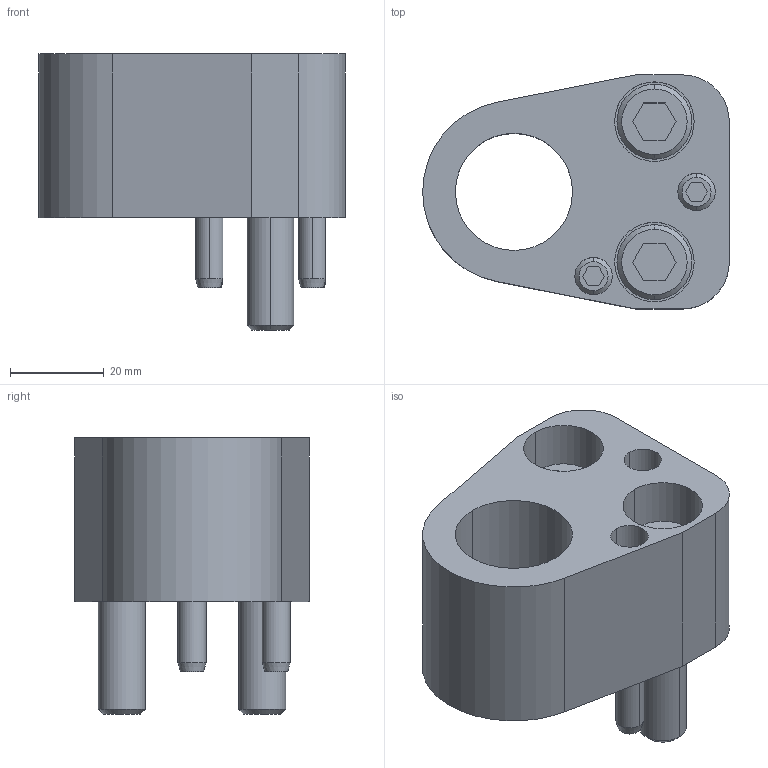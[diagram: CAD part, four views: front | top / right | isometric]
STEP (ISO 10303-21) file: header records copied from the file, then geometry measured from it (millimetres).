
FILE_DESCRIPTION(/* description */ (''),/* implementation_level */ '2;1');
FILE_NAME(/* name */ '3d_hapar25_04004_r00.stp',/* time_stamp */ '2011-01-10T14:14:57+09:00',/* author */ ('MISUMI'),/* organization */ (''),/* preprocessor_version */ 'ST-DEVELOPER v11',/* originating_system */ 'UGS - NX 5.0',/* authorisation */ '');
FILE_SCHEMA (('CONFIG_CONTROL_DESIGN'));
Length unit declared in the file: millimetre
Products named in the file (1): 3d_hapar25_04004_r00
Bounding box: 65.5 x 50 x 59 mm (x, y, z)
Volume: 73933 mm3; surface area: 24929.1 mm2
Topology: 7 solids, 7 shells, 135 faces, 294 edges, 188 vertices
Faces by surface type: plane 60, cylinder 49, cone 26
Entity records: 3836 total; most frequent: DIRECTION 684, CARTESIAN_POINT 672, ORIENTED_EDGE 588, EDGE_CURVE 294, AXIS2_PLACEMENT_3D 260, VERTEX_POINT 188, LINE 164, VECTOR 164
